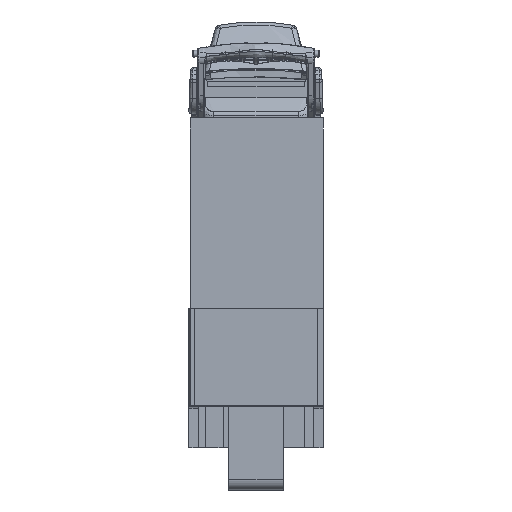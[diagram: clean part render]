
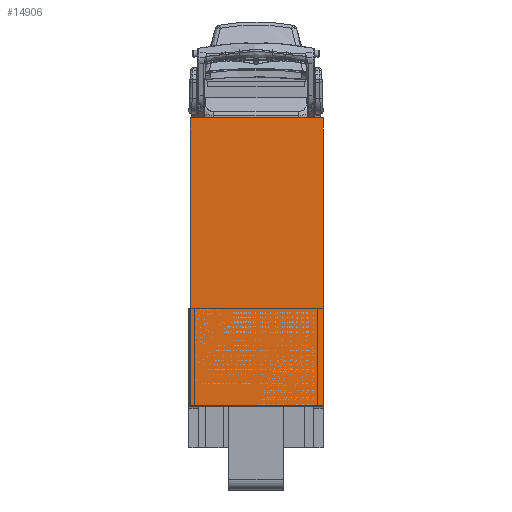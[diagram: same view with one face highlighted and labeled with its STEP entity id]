
A CAD part, left-side view. The second image highlights one B-rep face of the part: STEP entity #14906.
In plain terms, the highlighted planar face has unit normal (-1, 0, 0).
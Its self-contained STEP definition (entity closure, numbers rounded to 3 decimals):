
#3103=PLANE('',#47629);
#14906=ADVANCED_FACE('',(#16208),#3103,.T.);
#16208=FACE_OUTER_BOUND('',#17326,.T.);
#17326=EDGE_LOOP('',(#29456,#29457,#29458,#29459));
#20185=LINE('',#81667,#23520);
#20193=LINE('',#81683,#23528);
#20194=LINE('',#81685,#23529);
#20195=LINE('',#81686,#23530);
#23520=VECTOR('',#54947,1.);
#23528=VECTOR('',#54959,1.);
#23529=VECTOR('',#54962,1.);
#23530=VECTOR('',#54963,1.);
#29456=ORIENTED_EDGE('',*,*,#42744,.F.);
#29457=ORIENTED_EDGE('',*,*,#42743,.F.);
#29458=ORIENTED_EDGE('',*,*,#42745,.T.);
#29459=ORIENTED_EDGE('',*,*,#42735,.T.);
#36097=VERTEX_POINT('',#81665);
#36099=VERTEX_POINT('',#81668);
#36103=VERTEX_POINT('',#81680);
#36104=VERTEX_POINT('',#81682);
#42735=EDGE_CURVE('',#36099,#36097,#20185,.T.);
#42743=EDGE_CURVE('',#36104,#36103,#20193,.T.);
#42744=EDGE_CURVE('',#36103,#36097,#20194,.T.);
#42745=EDGE_CURVE('',#36104,#36099,#20195,.T.);
#47629=AXIS2_PLACEMENT_3D('',#81687,#54964,#54965);
#54947=DIRECTION('',(0.,-1.,0.));
#54959=DIRECTION('',(0.,-1.,0.));
#54962=DIRECTION('',(0.,0.,-1.));
#54963=DIRECTION('',(0.,0.,-1.));
#54964=DIRECTION('',(-1.,0.,0.));
#54965=DIRECTION('',(0.,0.,1.));
#81665=CARTESIAN_POINT('',(-327.5,-24.75,-0.147));
#81667=CARTESIAN_POINT('',(-327.5,24.25,-0.147));
#81668=CARTESIAN_POINT('',(-327.5,24.25,-0.147));
#81680=CARTESIAN_POINT('',(-327.5,-24.75,106.));
#81682=CARTESIAN_POINT('',(-327.5,24.25,106.));
#81683=CARTESIAN_POINT('',(-327.5,24.25,106.));
#81685=CARTESIAN_POINT('',(-327.5,-24.75,106.));
#81686=CARTESIAN_POINT('',(-327.5,24.25,106.));
#81687=CARTESIAN_POINT('',(-327.5,24.25,106.));
